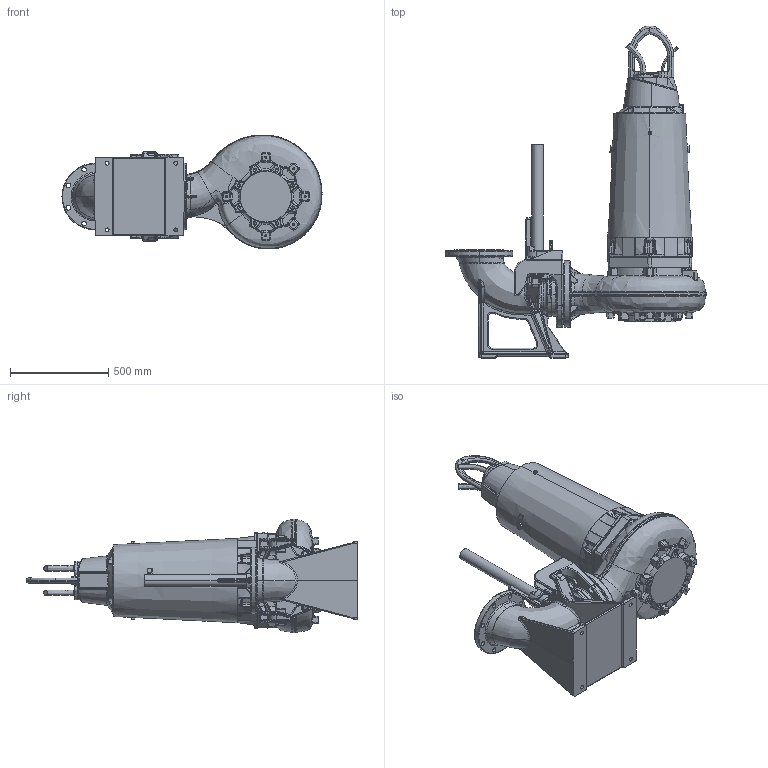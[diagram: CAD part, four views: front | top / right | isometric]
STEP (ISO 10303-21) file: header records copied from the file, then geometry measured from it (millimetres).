
FILE_DESCRIPTION (( 'STEP AP214' ), '1' );
FILE_NAME ('PE4_XFP200J-CH2_WET_A_NG2.STEP', '2017-03-15T07:19:56', ( '' ), ( '' ), 'SwSTEP 2.0', 'SolidWorks 2017', '' );
FILE_SCHEMA (( 'AUTOMOTIVE_DESIGN' ));
Length unit declared in the file: millimetre
Products named in the file (1): PE4_XFP200J-CH2_WET_A_NG2
Bounding box: 1325.82 x 1691.6 x 580.89 mm (x, y, z)
Volume: 210941595.1 mm3; surface area: 4698222 mm2
Topology: 4 solids, 11 shells, 4121 faces, 10094 edges, 5833 vertices
Faces by surface type: bspline 1461, cylinder 986, plane 794, torus 387, cone 359, sphere 134
Entity records: 262702 total; most frequent: CARTESIAN_POINT 132958, ORIENTED_EDGE 19694, DIRECTION 15189, EDGE_CURVE 9847, AXIS2_PLACEMENT_3D 6229, VERTEX_POINT 5825, EDGE_LOOP 4272, UNCERTAINTY_MEASURE_WITH_UNIT 4127
